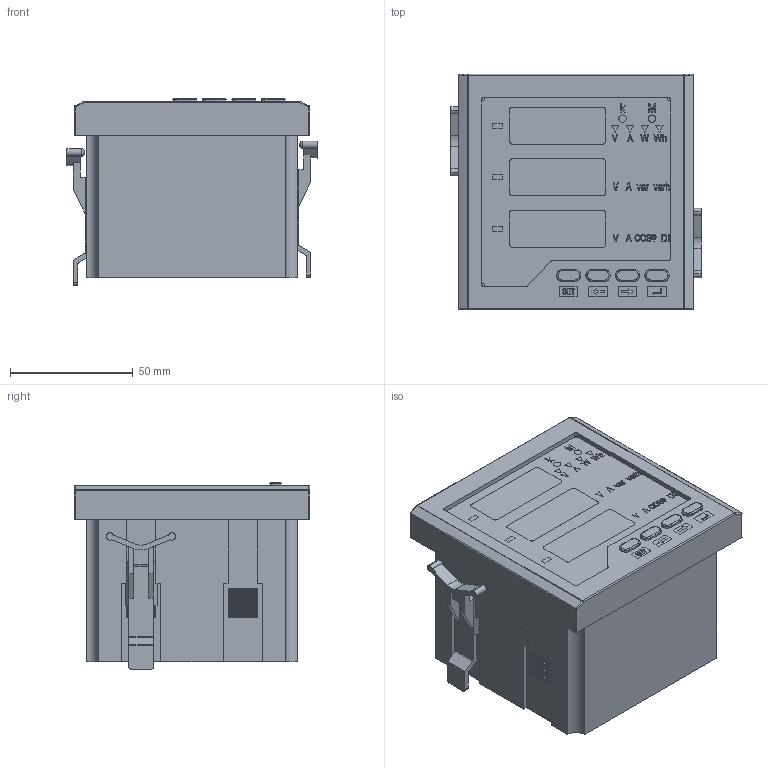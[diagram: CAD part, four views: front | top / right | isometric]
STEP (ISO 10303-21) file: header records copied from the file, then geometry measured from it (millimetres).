
FILE_DESCRIPTION (( 'STEP AP214' ), '1' );
FILE_NAME ('M-160.STEP', '2024-08-02T12:07:35', ( '' ), ( '' ), 'SwSTEP 2.0', 'SolidWorks 2022', '' );
FILE_SCHEMA (( 'AUTOMOTIVE_DESIGN' ));
Length unit declared in the file: millimetre
Products named in the file (6): Caixa; Moldura M-160; Trava; Botao; M-160; Lente
Assembly tree (6 placements, depth 2):
  M-160
    Caixa
    Moldura M-160
    Lente
    Botao
    Trava  x2
Bounding box: 102 x 96 x 76.01 mm (x, y, z)
Volume: 93619.9 mm3; surface area: 98674.7 mm2
Topology: 6 solids, 6 shells, 1330 faces, 3419 edges, 2160 vertices
Faces by surface type: plane 987, cylinder 166, bspline 137, torus 32, sphere 8
Entity records: 44586 total; most frequent: CARTESIAN_POINT 13495, ORIENTED_EDGE 6530, DIRECTION 5648, EDGE_CURVE 3265, LINE 2630, VECTOR 2630, VERTEX_POINT 2064, AXIS2_PLACEMENT_3D 1509
